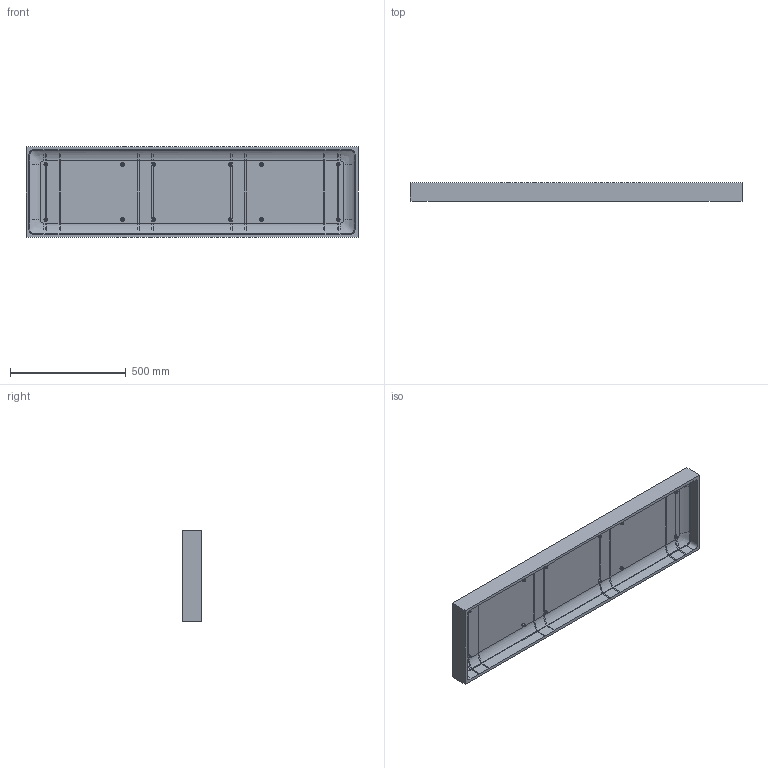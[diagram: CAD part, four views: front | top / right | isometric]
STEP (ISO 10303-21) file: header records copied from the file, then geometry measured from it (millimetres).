
FILE_DESCRIPTION (( 'STEP AP214' ), '1' );
FILE_NAME ('1755-931T-PID.STEP', '2022-11-13T17:18:28', ( '' ), ( '' ), 'SwSTEP 2.0', 'SolidWorks 2021', '' );
FILE_SCHEMA (( 'AUTOMOTIVE_DESIGN' ));
Length unit declared in the file: inch
Products named in the file (1): 1755-931T-PID
Bounding box: 1431.15 x 78.74 x 389.75 mm (x, y, z)
Volume: 12781601.2 mm3; surface area: 1572201.5 mm2
Topology: 1 solids, 1 shells, 327 faces, 740 edges, 432 vertices
Faces by surface type: torus 92, bspline 76, plane 59, cylinder 52, cone 48
Entity records: 26370 total; most frequent: CARTESIAN_POINT 19460, ORIENTED_EDGE 1480, DIRECTION 1392, EDGE_CURVE 740, AXIS2_PLACEMENT_3D 588, VERTEX_POINT 432, EDGE_LOOP 344, CIRCLE 336
